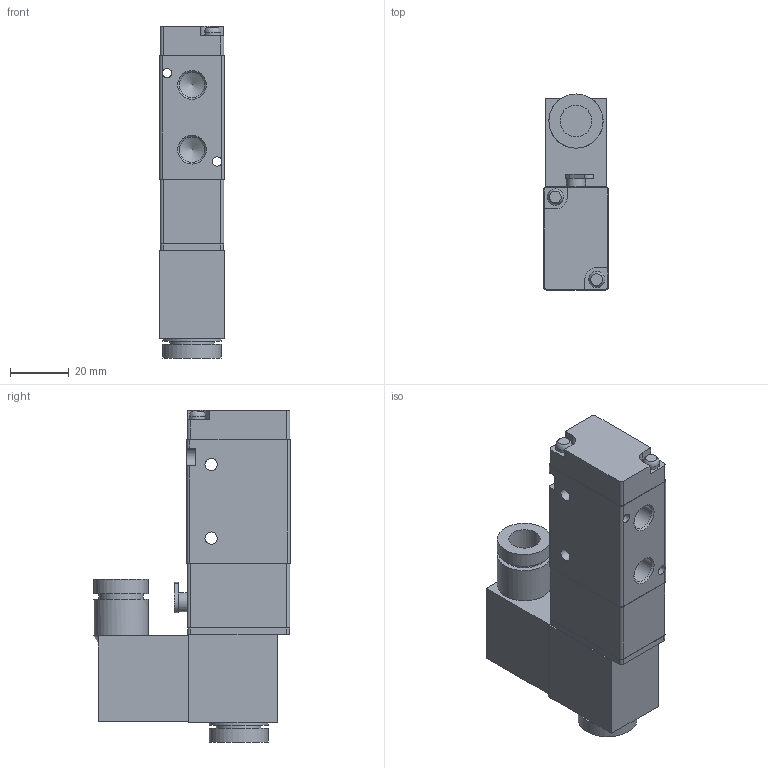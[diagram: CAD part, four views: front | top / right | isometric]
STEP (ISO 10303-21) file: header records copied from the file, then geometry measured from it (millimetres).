
FILE_DESCRIPTION( ( 'STEP AP214' ), '1' );
FILE_NAME( 'C:/Users/emc02044/Desktop/RV三通/RV3221-06QE10.stp', '2026-07-30T11:35:43', ( 'License CC BY-ND 4.0' ), ( 'CADENAS' ), ' ', 'PARTsolutions', ' ' );
FILE_SCHEMA( ( 'AUTOMOTIVE_DESIGN { 1 0 10303 214 1 1 1 1 }' ) );
Length unit declared in the file: millimetre
Products named in the file (2): RV3221-06QE10; _RV3221-06QE10-body
Assembly tree (1 placements, depth 2):
  RV3221-06QE10
    _RV3221-06QE10-body
Bounding box: 22.3 x 66.6 x 112.7 mm (x, y, z)
Volume: 99379.3 mm3; surface area: 20810.3 mm2
Topology: 1 solids, 1 shells, 109 faces, 284 edges, 187 vertices
Faces by surface type: plane 59, cylinder 41, cone 7, sphere 2
Full cylindrical faces by diameter (mm): 3.2 x2, 4.2 x2, 5.5 x2, 6.5 x1, 8.566 x3, 10.8 x1, 15 x2, 18.4 x2, 20 x2
Entity records: 4184 total; most frequent: CARTESIAN_POINT 694, DIRECTION 549, ORIENTED_EDGE 484, EDGE_CURVE 242, AXIS2_PLACEMENT_3D 201, VERTEX_POINT 175, EDGE_LOOP 158, LINE 147
